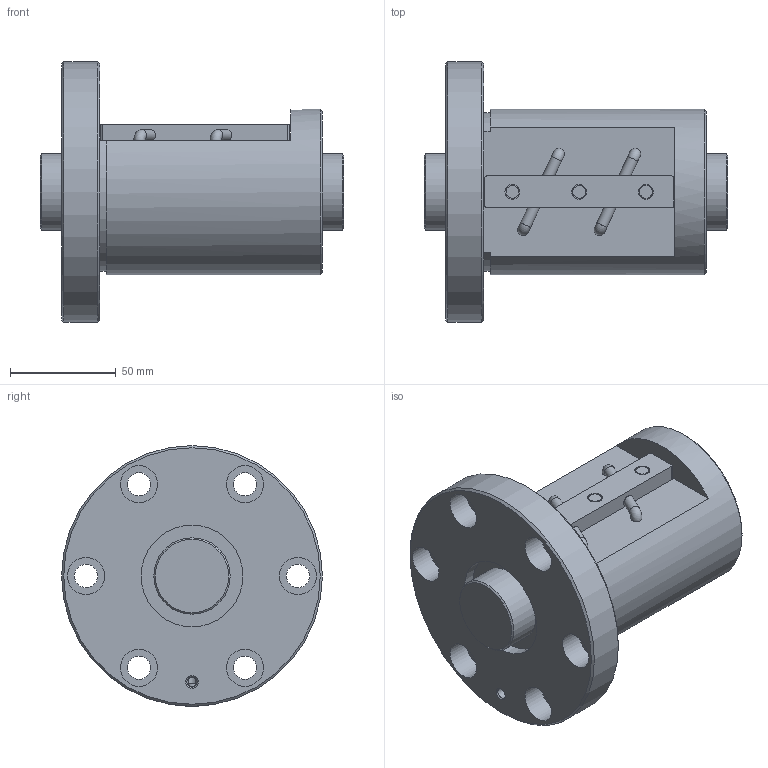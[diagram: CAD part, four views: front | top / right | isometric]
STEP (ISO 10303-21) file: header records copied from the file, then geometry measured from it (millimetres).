
FILE_DESCRIPTION(/* description */ ('STEP AP203'),/* implementation_level */ '2;1');
FILE_NAME(/* name */ 'BNF3612V-5RRG1+143LC0_000_rev',/* time_stamp */ '2024-08-06T08:39:31+02:00',/* author */ ('License CC BY-ND 4.0'),/* organization */ ('CADENAS'),/* preprocessor_version */ 'ST-DEVELOPER v19.3',/* originating_system */ 'PARTsolutions',/* authorisation */ ' ');
FILE_SCHEMA (('CONFIG_CONTROL_DESIGN'));
Length unit declared in the file: millimetre
Products named in the file (3): BNF3612V-5RRG1+143LC0_000_rev; BNF 3612-5RR000 Shaft; BNF 3612-5RR Nut
Assembly tree (2 placements, depth 2):
  BNF3612V-5RRG1+143LC0_000_rev
    BNF 3612-5RR000 Shaft
    BNF 3612-5RR Nut
Bounding box: 143 x 123 x 123 mm (x, y, z)
Volume: 659941.7 mm3; surface area: 94520 mm2
Topology: 2 solids, 2 shells, 77 faces, 168 edges, 110 vertices
Faces by surface type: cylinder 37, plane 29, cone 7, torus 4
Full cylindrical faces by diameter (mm): 4.5 x2, 4.917 x1, 5.198 x4, 6 x3, 7 x3, 11 x6, 17.5 x6, 36 x2, 48 x2, 78 x1, 123 x1
Entity records: 1943 total; most frequent: DIRECTION 348, CARTESIAN_POINT 324, ORIENTED_EDGE 220, AXIS2_PLACEMENT_3D 162, EDGE_LOOP 160, FACE_BOUND 160, EDGE_CURVE 110, VERTEX_POINT 96
